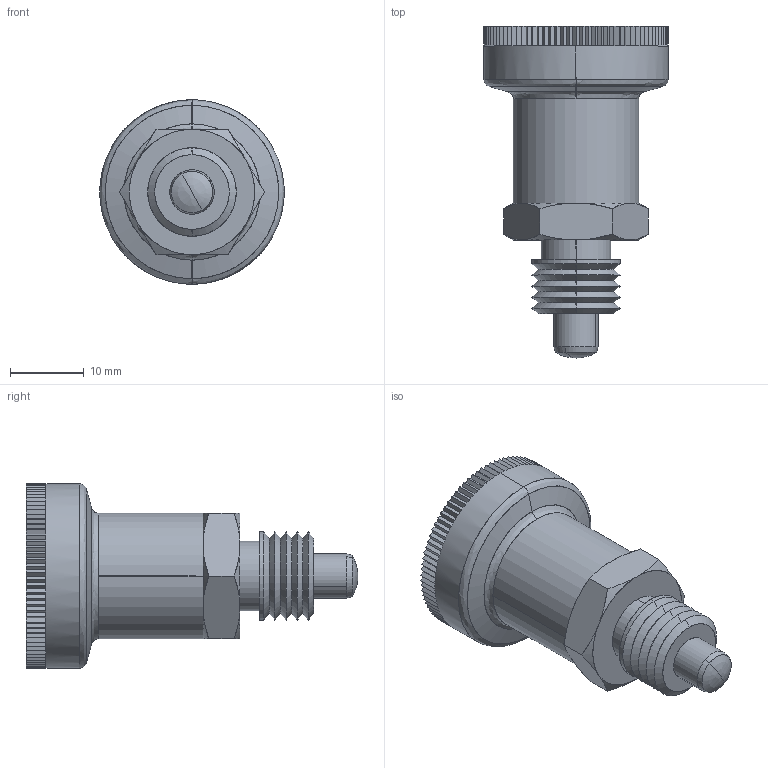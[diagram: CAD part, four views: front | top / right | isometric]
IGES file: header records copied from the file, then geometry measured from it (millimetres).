
Start section: SolidWorks IGES file using analytic representation for surfaces
Global section: file name: C:\Documents and Settings\IANO\Desktop\Temp File\32730_v2\32730_v2_20160202_IGES\32730.W0226.igs; native system: SolidWorks 2009; preprocessor: SolidWorks 2009; author: IANO; date: 160211.142830; units: millimetre
Bounding box: 25 x 45 x 25 mm (x, y, z)
Surface area: 6191.7 mm2 (no closed solid volume)
Topology: 0 solids, 0 shells, 360 faces, 2526 edges, 2524 vertices
Faces by surface type: bspline 294, revolution 66
